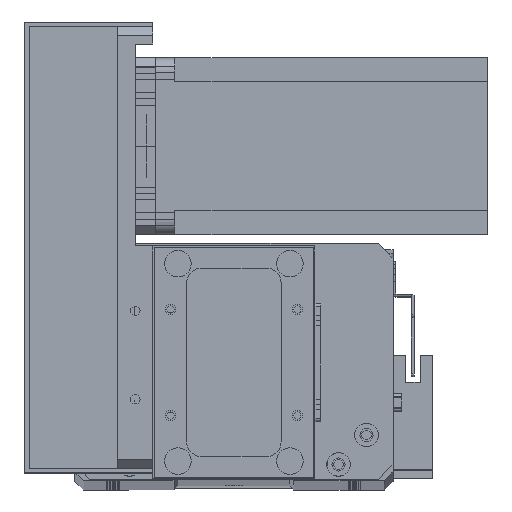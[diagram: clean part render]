
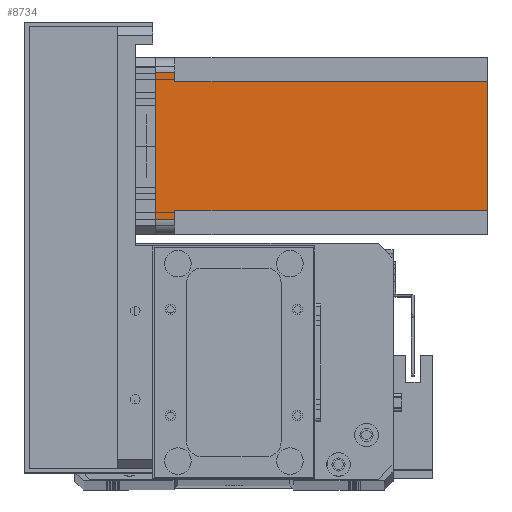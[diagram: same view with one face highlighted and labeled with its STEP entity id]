
A CAD part, top view. The second image highlights one B-rep face of the part: STEP entity #8734.
In plain terms, the highlighted planar face has unit normal (0, 0, 1) as drawn and (0, -1, 0) by its records, which use the part's own axes.
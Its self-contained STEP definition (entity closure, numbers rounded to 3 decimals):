
#16 = CARTESIAN_POINT ( 'NONE',  ( 8., 0., -6.5 ) ) ;
#596 = EDGE_CURVE ( 'NONE', #27272, #31826, #32471, .T. ) ;
#1710 = CARTESIAN_POINT ( 'NONE',  ( 8., 0., -112.5 ) ) ;
#2281 = EDGE_CURVE ( 'NONE', #22298, #28903, #10627, .T. ) ;
#2609 = VECTOR ( 'NONE', #20805, 1000. ) ;
#2888 = ORIENTED_EDGE ( 'NONE', *, *, #28098, .F. ) ;
#3521 = CARTESIAN_POINT ( 'NONE',  ( 0., 0., -112.5 ) ) ;
#3831 = ORIENTED_EDGE ( 'NONE', *, *, #29767, .F. ) ;
#4034 = EDGE_CURVE ( 'NONE', #6730, #22298, #23371, .T. ) ;
#4203 = CARTESIAN_POINT ( 'NONE',  ( 0., 0., -112.5 ) ) ;
#4738 = ORIENTED_EDGE ( 'NONE', *, *, #21231, .F. ) ;
#5677 = CARTESIAN_POINT ( 'NONE',  ( 55., 0., -112.5 ) ) ;
#6489 = DIRECTION ( 'NONE',  ( 0., 0., 1. ) ) ;
#6629 = VECTOR ( 'NONE', #25747, 1000. ) ;
#6672 = CARTESIAN_POINT ( 'NONE',  ( 55., 0., 0. ) ) ;
#6730 = VERTEX_POINT ( 'NONE', #30212 ) ;
#7125 = VECTOR ( 'NONE', #10138, 1000. ) ;
#7630 = DIRECTION ( 'NONE',  ( -1., 0., 0. ) ) ;
#8734 = ADVANCED_FACE ( 'NONE', ( #18518 ), #9299, .T. ) ;
#9299 = PLANE ( 'NONE',  #11076 ) ;
#9566 = CARTESIAN_POINT ( 'NONE',  ( 5., 0., 0. ) ) ;
#10138 = DIRECTION ( 'NONE',  ( 0., 0., -1. ) ) ;
#10627 = LINE ( 'NONE', #5677, #22287 ) ;
#10845 = CARTESIAN_POINT ( 'NONE',  ( 8., 0., -112.5 ) ) ;
#11076 = AXIS2_PLACEMENT_3D ( 'NONE', #4203, #26700, #11787 ) ;
#11698 = ORIENTED_EDGE ( 'NONE', *, *, #21423, .T. ) ;
#11787 = DIRECTION ( 'NONE',  ( 0., 0., -1. ) ) ;
#12376 = LINE ( 'NONE', #20487, #31475 ) ;
#12447 = CARTESIAN_POINT ( 'NONE',  ( 52., 0., -112.5 ) ) ;
#12590 = DIRECTION ( 'NONE',  ( 0., 0., -1. ) ) ;
#13006 = CARTESIAN_POINT ( 'NONE',  ( 5., 0., -112.5 ) ) ;
#14198 = VERTEX_POINT ( 'NONE', #12447 ) ;
#14288 = LINE ( 'NONE', #3521, #20142 ) ;
#15121 = CARTESIAN_POINT ( 'NONE',  ( 52., 0., -112.5 ) ) ;
#15646 = CARTESIAN_POINT ( 'NONE',  ( 8., 0., -6.5 ) ) ;
#16223 = DIRECTION ( 'NONE',  ( 1., 0., 0. ) ) ;
#16283 = ORIENTED_EDGE ( 'NONE', *, *, #2281, .T. ) ;
#18127 = VERTEX_POINT ( 'NONE', #15646 ) ;
#18518 = FACE_OUTER_BOUND ( 'NONE', #20182, .T. ) ;
#19017 = VECTOR ( 'NONE', #7630, 1000. ) ;
#19249 = VECTOR ( 'NONE', #12590, 1000. ) ;
#19723 = EDGE_CURVE ( 'NONE', #6730, #14198, #27782, .T. ) ;
#19877 = ORIENTED_EDGE ( 'NONE', *, *, #4034, .T. ) ;
#19966 = CARTESIAN_POINT ( 'NONE',  ( 55., 0., -6.5 ) ) ;
#20142 = VECTOR ( 'NONE', #16223, 1000. ) ;
#20182 = EDGE_LOOP ( 'NONE', ( #19877, #16283, #4738, #26310, #3831, #2888, #11698, #20974 ) ) ;
#20443 = CARTESIAN_POINT ( 'NONE',  ( 52., 0., -6.5 ) ) ;
#20487 = CARTESIAN_POINT ( 'NONE',  ( 0., 0., 0. ) ) ;
#20575 = LINE ( 'NONE', #16, #19017 ) ;
#20805 = DIRECTION ( 'NONE',  ( 1., 0., 0. ) ) ;
#20974 = ORIENTED_EDGE ( 'NONE', *, *, #19723, .F. ) ;
#21231 = EDGE_CURVE ( 'NONE', #27272, #28903, #12376, .T. ) ;
#21423 = EDGE_CURVE ( 'NONE', #30031, #14198, #14288, .T. ) ;
#22287 = VECTOR ( 'NONE', #6489, 1000. ) ;
#22298 = VERTEX_POINT ( 'NONE', #19966 ) ;
#23371 = LINE ( 'NONE', #20443, #2609 ) ;
#25747 = DIRECTION ( 'NONE',  ( 0., 0., 1. ) ) ;
#26310 = ORIENTED_EDGE ( 'NONE', *, *, #596, .T. ) ;
#26700 = DIRECTION ( 'NONE',  ( 0., -1., 0. ) ) ;
#27254 = LINE ( 'NONE', #10845, #6629 ) ;
#27272 = VERTEX_POINT ( 'NONE', #9566 ) ;
#27782 = LINE ( 'NONE', #15121, #7125 ) ;
#27900 = DIRECTION ( 'NONE',  ( 1., 0., 0. ) ) ;
#28098 = EDGE_CURVE ( 'NONE', #30031, #18127, #27254, .T. ) ;
#28903 = VERTEX_POINT ( 'NONE', #6672 ) ;
#29767 = EDGE_CURVE ( 'NONE', #18127, #31826, #20575, .T. ) ;
#30031 = VERTEX_POINT ( 'NONE', #1710 ) ;
#30212 = CARTESIAN_POINT ( 'NONE',  ( 52., 0., -6.5 ) ) ;
#31412 = CARTESIAN_POINT ( 'NONE',  ( 5., 0., -6.5 ) ) ;
#31475 = VECTOR ( 'NONE', #27900, 1000. ) ;
#31826 = VERTEX_POINT ( 'NONE', #31412 ) ;
#32471 = LINE ( 'NONE', #13006, #19249 ) ;
